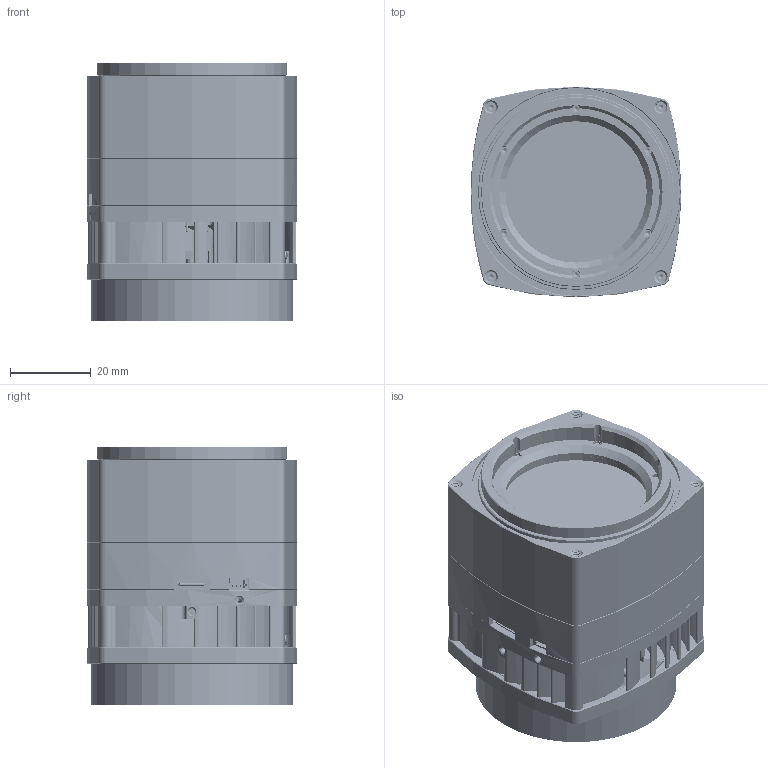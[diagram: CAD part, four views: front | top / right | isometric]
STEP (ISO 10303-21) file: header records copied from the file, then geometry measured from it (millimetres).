
FILE_DESCRIPTION(/* description */ (''),/* implementation_level */ '2;1');
FILE_NAME(/* name */ 'STP-MJ-(MJ042MR-GP-P11-BSI)-Tmount.stp',/* time_stamp */ '2021-09-22T17:09:06+02:00',/* author */ (''),/* organization */ (''),/* preprocessor_version */ 'ST-DEVELOPER v16.7',/* originating_system */ 'SIEMENS PLM Software NX 1907',/* authorisation */ '');
FILE_SCHEMA (('AUTOMOTIVE_DESIGN { 1 0 10303 214 3 1 1 1 }'));
Products named in the file (34): DF40C-60DP_stp; SROB-M1.6X3-CSK-TX-CUST; MECH-MJ-52MM-T-MOUNT-B; CONN-815-22-004-30-001101; DF40HC_4.0_-60DS_stp; SM03B-SRSS-TB_step; 1054500101_stp; Board-CM-U3-PCA; R-32207615; MJ-52MM-FAN-50X15MM-CUST1; CONN-319-10-104-CUT; SROB-M1.6X20-CSK-TX-STNLS; MECH-MJ-52MM-COOL-CVR; MECH-MJ-52MM-COOL-HTS; MECH-MJ042-INC2; GSENSE400BSI-NG; FOIL-IND-20X20X0.1MM; MECH-LIGHTPIPE-1X2.5MM-CUST; DF40-60-EXT-1.5MM-PCA; PELT-3MD10-291-0805AN; TP-11X11X0.08-TPCM580; PCB-MJ-PLT; SROB-M1.6X3-CSK-TX-STNLS; SROB-M1.6X6-CUST-R-PEEK; SROB-M1.6X6-CUST-PEEK; SROB-M1.6X12-CSK-TX-CUST; MECH-MJ-52MM-MID-CU; FLT-SPH-AR2X-D35X1; MECH-MJ-52MM-FRONT-STNLS; CM400-PCA_MODEL; LA-MJ042-T-MOUNT-B; CM-U3-PCA; MJ-52MM-COOL-SUBASSM; MJ042MR-GP-P11-B-MAIN-SUBA
Assembly tree (52 placements, depth 3):
  MJ042MR-GP-P11-B-MAIN-SUBA
    MECH-MJ-52MM-FRONT-STNLS
    FLT-SPH-AR2X-D35X1
    MECH-MJ-52MM-MID-CU
    MJ-52MM-COOL-SUBASSM
      MECH-MJ-52MM-COOL-HTS
      MECH-MJ-52MM-COOL-CVR
      SROB-M1.6X20-CSK-TX-STNLS  x4
      CONN-319-10-104-CUT
      MJ-52MM-FAN-50X15MM-CUST1
      R-32207615
    SROB-M1.6X12-CSK-TX-CUST  x4
    SROB-M1.6X6-CUST-PEEK  x2
    SROB-M1.6X6-CUST-R-PEEK  x2
    CM-U3-PCA
      Board-CM-U3-PCA
      1054500101_stp
      SM03B-SRSS-TB_step
      DF40HC_4.0_-60DS_stp
      CONN-815-22-004-30-001101
    SROB-M1.6X3-CSK-TX-STNLS  x4
    PCB-MJ-PLT
    TP-11X11X0.08-TPCM580  x2
    PELT-3MD10-291-0805AN
    DF40-60-EXT-1.5MM-PCA
    MECH-LIGHTPIPE-1X2.5MM-CUST  x3
    FOIL-IND-20X20X0.1MM
    GSENSE400BSI-NG
    MECH-MJ042-INC2
    LA-MJ042-T-MOUNT-B
      MECH-MJ-52MM-T-MOUNT-B
      SROB-M1.6X3-CSK-TX-CUST  x6
    CM400-PCA_MODEL
      DF40C-60DP_stp
Bounding box: 52.1 x 52.1 x 63.97 mm (x, y, z)
Volume: 69848.2 mm3; surface area: 79936.6 mm2
Topology: 177 solids, 180 shells, 10840 faces, 29038 edges, 18998 vertices
Faces by surface type: plane 6523, cylinder 3004, cone 741, bspline 446, torus 92, sphere 20, extrusion 14
Full cylindrical faces by diameter (mm): 0.4 x6, 0.46 x115, 0.5 x120, 0.76 x115, 0.8 x12, 1 x3, 1.25 x2, 1.3 x10, 1.6 x56, 1.9 x8, 2.1 x6, 2.5 x64, 2.9 x4, 2.95 x8, 3.2 x4, 18 x1, 33.8 x1, 35 x2, 35.04 x1, 35.7 x1, 36 x1, 36.2 x1, 39.2 x1, 42.7 x1, 47 x1, 47.8 x1, 48.5 x1, 49.85 x1, 51.5 x1
Entity records: 417600 total; most frequent: CARTESIAN_POINT 155675, ORIENTED_EDGE 54132, DIRECTION 51398, EDGE_CURVE 27066, VECTOR 18828, LINE 18814, VERTEX_POINT 18053, AXIS2_PLACEMENT_3D 16285
